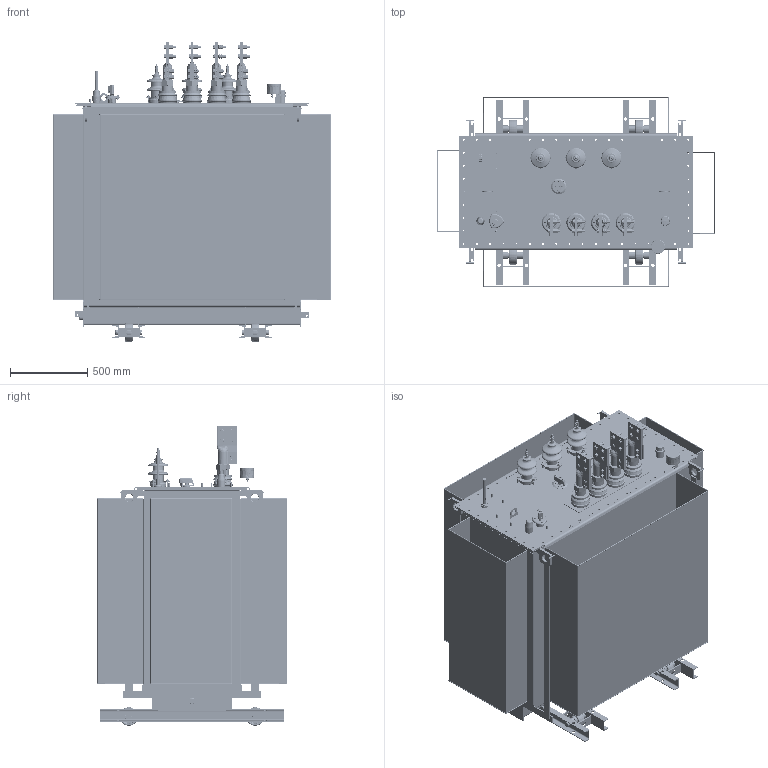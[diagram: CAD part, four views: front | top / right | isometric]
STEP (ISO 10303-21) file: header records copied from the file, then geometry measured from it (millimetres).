
FILE_DESCRIPTION(/* description */ (''),/* implementation_level */ '2;1');
FILE_NAME(/* name */ 'D:\SEARCHWORK\Готовые\Готовые ТМГ\ТМГ33\ТМГ33-1600-10-У1-Х3К2\ТМГ33-1600-10-У1-Х3К2.stp',/* time_stamp */ '2023-08-23T09:06:52+03:00',/* author */ ('55505'),/* organization */ (''),/* preprocessor_version */ 'ST-DEVELOPER v18.1',/* originating_system */ 'Autodesk Inventor 2021',/* authorisation */ '');
FILE_SCHEMA (('AUTOMOTIVE_DESIGN { 1 0 10303 214 3 1 1 }'));
Products named in the file (1): ТМГ33-1600-10-У1-Х2
К2
Bounding box: 1808.75 x 1234.76 x 1944.4 mm (x, y, z)
Volume: 56452876.3 mm3; surface area: 29967456.6 mm2
Topology: 64 solids, 118 shells, 10833 faces, 28598 edges, 18172 vertices
Faces by surface type: plane 5461, cylinder 2466, bspline 1773, cone 616, torus 423, sphere 94
Full cylindrical faces by diameter (mm): 0.5 x1, 1.5 x2, 1.6 x3, 1.827 x2, 2 x2, 3 x10, 3.1 x2, 3.15 x3, 3.2 x2, 3.5 x1, 3.8 x4, 3.96 x3, 4 x8, 4.3 x2, 4.917 x2, 5 x11, 5.3 x5, 5.5 x13, 5.94 x5, 6 x35, 6.2 x5, 6.4 x6, 6.5 x1, 7 x13, 7.1 x2, 7.159 x1, 7.5 x9, 7.92 x3, 8 x13, 8.5 x3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
Entity records: 404397 total; most frequent: CARTESIAN_POINT 136172, ORIENTED_EDGE 56620, DIRECTION 48842, EDGE_CURVE 28334, VERTEX_POINT 18176, AXIS2_PLACEMENT_3D 16990, LINE 14862, VECTOR 14862
